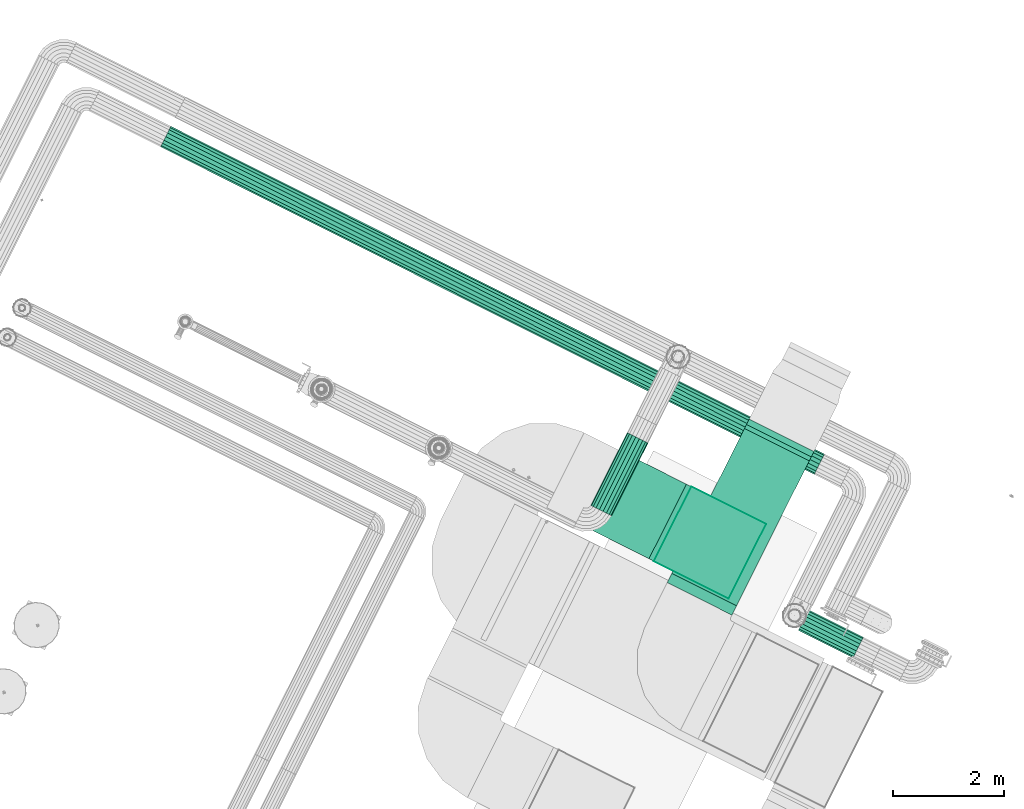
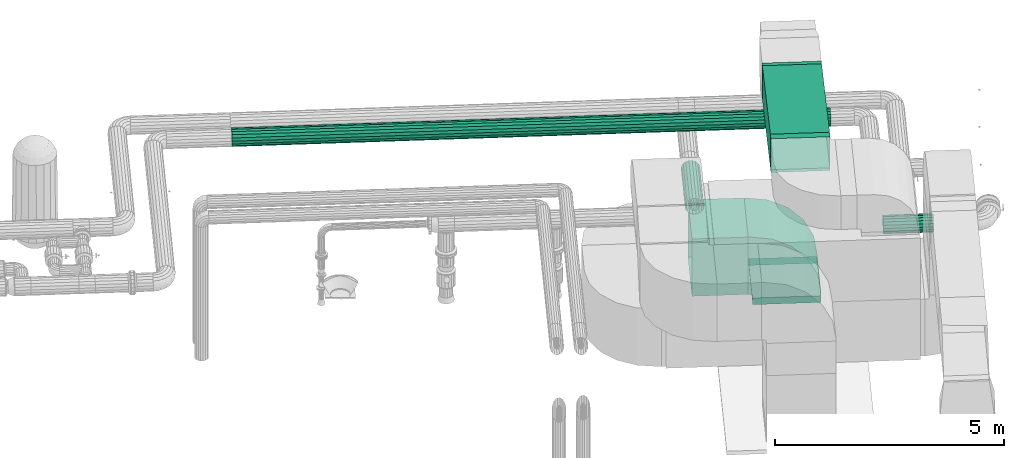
# One storey, part 9 of 152: 6 flow segments, 3 flow fittings, 1 flow treatment device.
"""IFC2X3 building model written with IfcOpenShell, lengths in metres."""

from ifc_helpers import new_model, si_unit, derived_unit, direction, frame, origin, place, context, subcontext, project, spatial, face_set, surface_model, source, transform, mapped, material, type_object, type_shapes, element, save


model = new_model("IFC2X3")

# Units and contexts
model_context = context("Model", 3, precision=5.2338327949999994e-05, world=origin(), true_north=direction((0.0, 1.0)))
body_context = subcontext(model_context, "Body", "Model", "MODEL_VIEW")
ifc_project = project(units=[si_unit("LENGTHUNIT", "METRE"), si_unit("AREAUNIT", "SQUARE_METRE"), si_unit("VOLUMEUNIT", "CUBIC_METRE"), si_unit("MASSUNIT", "GRAM", prefix="KILO"), si_unit("PLANEANGLEUNIT", "RADIAN"), derived_unit("THERMALTRANSMITTANCEUNIT", [(si_unit("MASSUNIT", "GRAM", prefix="KILO"), 1), (si_unit("THERMODYNAMICTEMPERATUREUNIT", "KELVIN"), -1), (si_unit("TIMEUNIT", "SECOND"), -3)])], contexts=[model_context])

# Site, building, storey
site_placement = place(None, frame((0.0, 0.0, 0.0), z_axis=(0.0, 0.0, 1.0), x_axis=(0.8939966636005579, -0.4480736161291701, 0.0)))
site = spatial("IfcSite", under=ifc_project, at=site_placement, Name="Default", CompositionType="ELEMENT")
building_placement = place(site_placement, origin())
building = spatial("IfcBuilding", under=site, at=building_placement, CompositionType="ELEMENT")
storey_placement = place(building_placement, frame((0.0, 0.0, 2.7499999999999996)))
storey = spatial("IfcBuildingStorey", under=building, at=storey_placement, Name="1. Obergeschoss", CompositionType="ELEMENT", Elevation=2.7499999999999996)

# Flow segment
ifc_material_1 = material(Name="IfcSurfaceStyle #9317")
distribution_element_type_1 = type_object("IfcDistributionElementType", Name="Stahlrohr nach DIN 2448 249461:Stahlrohr nach DIN 2448 249461", material=ifc_material_1)
shared_shape_1 = source(origin(), body_context, "Body", "SurfaceModel", [
    surface_model("IfcFaceBasedSurfaceModel", [(31.673034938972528, 11.262806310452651, 5.526090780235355), (31.673034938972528, 11.225338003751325, 5.53269745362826), (18.55, 11.225338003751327, 5.53269745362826), (18.55, 11.262806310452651, 5.526090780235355), (31.673034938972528, 11.19238892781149, 5.551720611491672), (18.55, 11.19238892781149, 5.551720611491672), (31.673034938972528, 11.167933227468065, 5.5808657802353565), (18.55, 11.167933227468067, 5.580865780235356), (31.673034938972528, 11.154920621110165, 5.616617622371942), (18.55, 11.154920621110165, 5.616617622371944), (31.673034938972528, 11.154920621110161, 5.654663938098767), (18.55, 11.154920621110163, 5.65466393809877), (31.673034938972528, 11.167933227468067, 5.690415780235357), (18.55, 11.167933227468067, 5.690415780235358), (31.673034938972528, 11.192388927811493, 5.719560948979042), (18.55, 11.19238892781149, 5.719560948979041), (31.673034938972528, 11.225338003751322, 5.738584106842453), (18.55, 11.225338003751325, 5.738584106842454), (31.673034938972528, 11.262806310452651, 5.745190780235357), (18.55, 11.26280631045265, 5.745190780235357), (31.673034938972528, 11.30027461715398, 5.73858410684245), (18.55, 11.300274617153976, 5.738584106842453), (31.673034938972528, 11.333223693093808, 5.719560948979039), (18.55, 11.333223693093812, 5.719560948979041), (31.673034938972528, 11.357679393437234, 5.690415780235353), (18.55, 11.357679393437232, 5.690415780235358), (31.673034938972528, 11.370691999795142, 5.654663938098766), (18.55, 11.37069199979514, 5.65466393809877), (31.673034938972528, 11.370691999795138, 5.616617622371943), (18.55, 11.37069199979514, 5.616617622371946), (31.673034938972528, 11.35767939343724, 5.580865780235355), (18.55, 11.357679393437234, 5.580865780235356), (31.673034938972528, 11.333223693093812, 5.551720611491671), (18.55, 11.333223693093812, 5.551720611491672), (31.673034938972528, 11.300274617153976, 5.532697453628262), (18.55, 11.300274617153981, 5.532697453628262), (31.673034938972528, 11.262806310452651, 5.426090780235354), (31.673034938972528, 11.191135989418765, 5.438728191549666), (18.55, 11.191135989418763, 5.43872819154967), (18.55, 11.262806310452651, 5.426090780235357), (31.673034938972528, 11.12811016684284, 5.475116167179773), (18.55, 11.12811016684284, 5.475116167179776), (31.673034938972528, 11.081330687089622, 5.530865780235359), (18.55, 11.081330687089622, 5.5308657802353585), (31.673034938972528, 11.056439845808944, 5.599252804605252), (18.55, 11.056439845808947, 5.599252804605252), (31.673034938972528, 11.056439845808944, 5.672028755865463), (18.55, 11.056439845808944, 5.672028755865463), (31.673034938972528, 11.081330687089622, 5.740415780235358), (18.55, 11.081330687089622, 5.740415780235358), (31.673034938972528, 11.128110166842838, 5.796165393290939), (18.55, 11.128110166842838, 5.796165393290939), (31.673034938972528, 11.191135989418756, 5.832553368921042), (18.55, 11.191135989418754, 5.832553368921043), (31.673034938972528, 11.26280631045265, 5.845190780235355), (18.55, 11.262806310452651, 5.845190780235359), (31.673034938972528, 11.334476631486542, 5.832553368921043), (18.55, 11.334476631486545, 5.832553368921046), (31.673034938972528, 11.397502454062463, 5.796165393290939), (18.55, 11.397502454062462, 5.796165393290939), (31.673034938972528, 11.444281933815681, 5.740415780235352), (18.55, 11.44428193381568, 5.740415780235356), (31.673034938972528, 11.469172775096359, 5.672028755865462), (18.55, 11.469172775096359, 5.672028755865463), (31.673034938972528, 11.469172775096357, 5.599252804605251), (18.55, 11.469172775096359, 5.599252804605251), (31.673034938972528, 11.444281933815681, 5.530865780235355), (18.55, 11.444281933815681, 5.530865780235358), (31.673034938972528, 11.397502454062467, 5.475116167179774), (18.55, 11.397502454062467, 5.475116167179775), (31.673034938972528, 11.334476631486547, 5.4387281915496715), (18.55, 11.33447663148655, 5.4387281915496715)], [face_set([[[0, 1, 2, 3]], [[1, 4, 5, 2]], [[4, 6, 7, 5]], [[6, 8, 9, 7]], [[8, 10, 11, 9]], [[10, 12, 13, 11]], [[12, 14, 15, 13]], [[14, 16, 17, 15]], [[16, 18, 19, 17]], [[18, 20, 21, 19]], [[20, 22, 23, 21]], [[22, 24, 25, 23]], [[24, 26, 27, 25]], [[26, 28, 29, 27]], [[28, 30, 31, 29]], [[30, 32, 33, 31]], [[32, 34, 35, 33]], [[34, 0, 3, 35]], [[36, 37, 38, 39]], [[37, 40, 41, 38]], [[40, 42, 43, 41]], [[42, 44, 45, 43]], [[44, 46, 47, 45]], [[46, 48, 49, 47]], [[48, 50, 51, 49]], [[50, 52, 53, 51]], [[52, 54, 55, 53]], [[54, 56, 57, 55]], [[56, 58, 59, 57]], [[58, 60, 61, 59]], [[60, 62, 63, 61]], [[62, 64, 65, 63]], [[64, 66, 67, 65]], [[66, 68, 69, 67]], [[68, 70, 71, 69]], [[70, 36, 39, 71]]])]),
])
type_shapes(distribution_element_type_1, [shared_shape_1])
flow_segment_1_placement = place(storey_placement, frame((0.0, 0.0, -2.7499999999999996)))
element("IfcFlowSegment", 1, at=flow_segment_1_placement, inside=storey, type_object=distribution_element_type_1, material=ifc_material_1, Name="Stahlrohr nach DIN 2448", ObjectType="Stahlrohr nach DIN 2448", context=body_context, shape_type="MappedRepresentation", body=[
    mapped(shared_shape_1, transform((0.0, 0.0, 0.0), scale=1.0)),
])

# Flow fitting
ifc_material_2 = material(Name="IfcSurfaceStyle #271571")
distribution_element_type_2 = type_object("IfcDistributionElementType", Name="Bogen asymmetrisch 272380:Bogen asymmetrisch 272380", material=ifc_material_2)
shared_shape_2 = source(origin(), body_context, "Body", "SurfaceModel", [
    surface_model("IfcFaceBasedSurfaceModel", [(31.300000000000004, 8.373869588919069, 2.9769999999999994), (31.300000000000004, 8.373869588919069, 2.897), (31.300000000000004, 9.87386958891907, 2.897), (31.300000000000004, 9.87386958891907, 2.9769999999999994), (29.800000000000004, 8.373869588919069, 2.897), (29.800000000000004, 8.373869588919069, 2.9469999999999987), (29.800000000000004, 9.87386958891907, 2.9469999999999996), (29.800000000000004, 9.87386958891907, 2.897), (29.750000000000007, 9.87386958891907, 2.997), (29.765450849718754, 9.87386958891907, 2.9945528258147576), (29.765450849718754, 8.373869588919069, 2.9945528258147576), (29.750000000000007, 8.373869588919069, 2.997), (29.77938926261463, 9.87386958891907, 2.9874508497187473), (29.77938926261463, 8.373869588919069, 2.9874508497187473), (29.790450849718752, 9.87386958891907, 2.9763892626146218), (29.790450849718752, 8.373869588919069, 2.9763892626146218), (29.797552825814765, 9.87386958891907, 2.9624508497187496), (29.797552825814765, 8.373869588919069, 2.962450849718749), (29.700000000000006, 8.373869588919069, 2.997), (29.700000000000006, 9.87386958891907, 2.9970000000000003), (29.700000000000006, 8.373869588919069, 4.526999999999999), (29.750000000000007, 8.373869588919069, 4.526999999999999), (29.750000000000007, 9.87386958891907, 4.526999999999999), (29.700000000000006, 9.87386958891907, 4.526999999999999), (31.224137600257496, 9.87386958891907, 3.4559763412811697), (31.224137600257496, 8.373869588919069, 3.4559763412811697), (31.003976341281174, 9.87386958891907, 3.8880671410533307), (31.003976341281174, 8.373869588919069, 3.8880671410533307), (30.661067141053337, 9.87386958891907, 4.230976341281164), (30.661067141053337, 8.373869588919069, 4.230976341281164), (30.228976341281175, 9.87386958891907, 4.451137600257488), (30.228976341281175, 8.373869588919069, 4.451137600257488)], [face_set([[[0, 1, 2, 3]], [[4, 5, 6, 7]], [[8, 9, 10, 11]], [[9, 12, 13, 10]], [[12, 14, 15, 13]], [[14, 16, 17, 15]], [[16, 6, 5, 17]], [[11, 18, 19, 8]], [[20, 21, 22, 23]], [[3, 24, 25, 0]], [[24, 26, 27, 25]], [[26, 28, 29, 27]], [[28, 30, 31, 29]], [[30, 22, 21, 31]], [[24, 3, 12]], [[24, 12, 9]], [[24, 9, 8]], [[24, 8, 23]], [[24, 23, 26]], [[3, 2, 6]], [[3, 6, 16]], [[3, 16, 14]], [[3, 14, 12]], [[23, 22, 30]], [[23, 30, 28]], [[23, 28, 26]], [[23, 8, 19]], [[6, 2, 7]], [[13, 0, 25]], [[10, 13, 25]], [[11, 10, 25]], [[20, 11, 25]], [[27, 20, 25]], [[5, 1, 0]], [[17, 5, 0]], [[15, 17, 0]], [[13, 15, 0]], [[31, 21, 20]], [[29, 31, 20]], [[27, 29, 20]], [[18, 11, 20]], [[4, 1, 5]]])]),
])
type_shapes(distribution_element_type_2, [shared_shape_2])
flow_fitting_1_placement = place(storey_placement, frame((0.0, 0.0, -2.7499999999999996)))
element("IfcFlowFitting", 2, at=flow_fitting_1_placement, inside=storey, type_object=distribution_element_type_2, material=ifc_material_2, Name="Bogen asymmetrisch", ObjectType="Bogen asymmetrisch", context=body_context, shape_type="MappedRepresentation", body=[
    mapped(shared_shape_2, transform((0.0, 0.0, 0.0), scale=1.0)),
])

# Flow segment
distribution_element_type_3 = type_object("IfcDistributionElementType", Name="Luftleitungsteil:Luftleitungsteil", material=ifc_material_2)
shared_shape_3 = source(origin(), body_context, "Body", "SurfaceModel", [
    surface_model("IfcFaceBasedSurfaceModel", [(29.800000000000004, 9.87386958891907, 2.897), (29.800000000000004, 9.87386958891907, 2.7176829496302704), (29.800000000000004, 8.373869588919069, 2.7176829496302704), (29.800000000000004, 8.373869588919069, 2.897), (31.300000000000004, 8.373869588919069, 2.7176829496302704), (31.300000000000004, 8.373869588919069, 2.897), (31.300000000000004, 9.87386958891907, 2.7176829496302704), (31.300000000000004, 9.87386958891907, 2.897)], [face_set([[[0, 1, 2, 3]], [[3, 2, 4, 5]], [[5, 4, 6, 7]], [[7, 6, 1, 0]]])]),
])
type_shapes(distribution_element_type_3, [shared_shape_3])
flow_segment_2_placement = place(storey_placement, frame((0.0, 0.0, -2.7499999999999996)))
element("IfcFlowSegment", 3, at=flow_segment_2_placement, inside=storey, type_object=distribution_element_type_3, material=ifc_material_2, Name="Luftleitungsteil", ObjectType="Luftleitungsteil", context=body_context, shape_type="MappedRepresentation", body=[
    mapped(shared_shape_3, transform((0.0, 0.0, 0.0), scale=1.0)),
])

# Flow fitting
ifc_material_3 = material(Name="IfcSurfaceStyle #271184")
distribution_element_type_4 = type_object("IfcDistributionElementType", Name="Bogen symmetrisch 275929:Bogen symmetrisch 275929", material=ifc_material_3)
shared_shape_4 = source(origin(), body_context, "Body", "SurfaceModel", [
    surface_model("IfcFaceBasedSurfaceModel", [(30.184074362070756, 8.275025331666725, 7.294194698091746), (30.184074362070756, 8.231488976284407, 7.29704822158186), (31.484074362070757, 8.231488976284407, 7.29704822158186), (31.484074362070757, 8.275025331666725, 7.294194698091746), (30.184074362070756, 8.18786958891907, 7.297999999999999), (31.484074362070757, 8.18786958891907, 7.297999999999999), (31.484074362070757, 8.324835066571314, 7.289836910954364), (30.184074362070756, 8.324835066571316, 7.289836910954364), (31.484074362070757, 8.246394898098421, 6.393261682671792), (31.484074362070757, 8.196585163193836, 6.3976194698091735), (30.184074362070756, 8.196585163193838, 6.397619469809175), (30.184074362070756, 8.246394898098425, 6.393261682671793), (30.184074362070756, 8.187869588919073, 6.398), (30.184074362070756, 8.192231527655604, 6.397904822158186), (31.484074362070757, 8.192231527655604, 6.397904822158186), (31.484074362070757, 8.18786958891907, 6.398), (31.484074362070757, 8.13786958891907, 6.398), (30.184074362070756, 8.13786958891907, 6.398), (31.484074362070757, 8.137869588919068, 7.298000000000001), (30.184074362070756, 8.13786958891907, 7.298)], [face_set([[[0, 1, 2, 3]], [[1, 4, 5, 2]], [[3, 6, 7, 0]], [[8, 9, 10, 11]], [[12, 13, 14, 15]], [[13, 10, 9, 14]], [[15, 16, 17, 12]], [[18, 5, 4, 19]], [[4, 1, 0]], [[4, 0, 7]], [[4, 7, 11]], [[4, 11, 10]], [[4, 10, 13]], [[4, 13, 12]], [[4, 12, 17]], [[4, 17, 19]], [[3, 2, 5]], [[6, 3, 5]], [[8, 6, 5]], [[9, 8, 5]], [[14, 9, 5]], [[15, 14, 5]], [[16, 15, 5]], [[18, 16, 5]]])]),
])
type_shapes(distribution_element_type_4, [shared_shape_4])
flow_fitting_2_placement = place(storey_placement, frame((0.0, 0.0, -2.7499999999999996)))
element("IfcFlowFitting", 4, at=flow_fitting_2_placement, inside=storey, type_object=distribution_element_type_4, material=ifc_material_3, Name="Bogen symmetrisch", ObjectType="Bogen symmetrisch", context=body_context, shape_type="MappedRepresentation", body=[
    mapped(shared_shape_4, transform((0.0, 0.0, 0.0), scale=1.0)),
])

# Flow treatment device
ifc_material_4 = material(Name="IfcSurfaceStyle #271082")
distribution_element_type_5 = type_object("IfcDistributionElementType", Name="Schalldämpfer 276123:Schalldämpfer 276123", material=ifc_material_4)
shared_shape_5 = source(origin(), body_context, "Body", "SurfaceModel", [
    surface_model("IfcFaceBasedSurfaceModel", [(30.184074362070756, 8.246394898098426, 6.393261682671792), (30.184074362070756, 11.234978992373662, 6.131794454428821), (31.48407436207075, 11.234978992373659, 6.131794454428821), (31.484074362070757, 8.246394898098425, 6.393261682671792), (31.48407436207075, 11.31341916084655, 7.028369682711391), (31.48407436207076, 8.324835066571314, 7.289836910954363), (30.184074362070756, 11.313419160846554, 7.028369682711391), (30.184074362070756, 8.324835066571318, 7.289836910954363)], [face_set([[[0, 1, 2, 3]], [[3, 2, 4, 5]], [[5, 4, 6, 7]], [[7, 6, 1, 0]]])]),
])
type_shapes(distribution_element_type_5, [shared_shape_5])
flow_treatment_device_placement = place(storey_placement, frame((0.0, 0.0, -2.7499999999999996)))
element("IfcFlowTreatmentDevice", 5, at=flow_treatment_device_placement, inside=storey, type_object=distribution_element_type_5, material=ifc_material_4, Name="Schalldämpfer", ObjectType="Schalldämpfer", context=body_context, shape_type="MappedRepresentation", body=[
    mapped(shared_shape_5, transform((0.0, 0.0, 0.0), scale=1.0)),
])

# Flow fitting
distribution_element_type_6 = type_object("IfcDistributionElementType", Name="Bogen symmetrisch 276186:Bogen symmetrisch 276186", material=ifc_material_3)
shared_shape_6 = source(origin(), body_context, "Body", "SurfaceModel", [
    surface_model("IfcFaceBasedSurfaceModel", [(30.184074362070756, 11.28478872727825, 6.1274366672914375), (30.184074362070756, 11.328325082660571, 6.124583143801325), (31.48407436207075, 11.328325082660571, 6.124583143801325), (31.48407436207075, 11.28478872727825, 6.1274366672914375), (30.184074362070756, 11.371944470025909, 6.123631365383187), (31.48407436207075, 11.371944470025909, 6.123631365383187), (31.48407436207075, 11.234978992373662, 6.131794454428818), (30.184074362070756, 11.23497899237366, 6.131794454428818), (31.48407436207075, 11.313419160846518, 7.028369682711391), (31.48407436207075, 11.363228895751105, 7.024011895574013), (30.184074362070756, 11.363228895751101, 7.02401189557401), (30.184074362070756, 11.313419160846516, 7.028369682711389), (30.184074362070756, 11.37194447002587, 7.023631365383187), (30.184074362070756, 11.367582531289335, 7.023726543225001), (31.48407436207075, 11.367582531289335, 7.023726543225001), (31.48407436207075, 11.37194447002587, 7.023631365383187), (31.48407436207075, 11.421944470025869, 7.0236313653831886), (30.184074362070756, 11.421944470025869, 7.0236313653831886), (31.48407436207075, 11.421944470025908, 6.123631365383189), (30.184074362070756, 11.421944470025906, 6.123631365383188)], [face_set([[[0, 1, 2, 3]], [[1, 4, 5, 2]], [[3, 6, 7, 0]], [[8, 9, 10, 11]], [[12, 13, 14, 15]], [[13, 10, 9, 14]], [[15, 16, 17, 12]], [[18, 5, 4, 19]], [[4, 1, 0]], [[4, 0, 7]], [[4, 7, 11]], [[4, 11, 10]], [[4, 10, 13]], [[4, 13, 12]], [[4, 12, 17]], [[4, 17, 19]], [[3, 2, 5]], [[6, 3, 5]], [[8, 6, 5]], [[9, 8, 5]], [[14, 9, 5]], [[15, 14, 5]], [[16, 15, 5]], [[18, 16, 5]]])]),
])
type_shapes(distribution_element_type_6, [shared_shape_6])
flow_fitting_3_placement = place(storey_placement, frame((0.0, 0.0, -2.7499999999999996)))
element("IfcFlowFitting", 6, at=flow_fitting_3_placement, inside=storey, type_object=distribution_element_type_6, material=ifc_material_3, Name="Bogen symmetrisch", ObjectType="Bogen symmetrisch", context=body_context, shape_type="MappedRepresentation", body=[
    mapped(shared_shape_6, transform((0.0, 0.0, 0.0), scale=1.0)),
])

# Flow segments
distribution_element_type_7 = type_object("IfcDistributionElementType", Name="Luftleitung 277036:Luftleitung 277036", material=ifc_material_2)
shared_shape_7 = source(origin(), body_context, "Body", "SurfaceModel", [
    surface_model("IfcFaceBasedSurfaceModel", [(29.700000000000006, 9.87386958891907, 4.526999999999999), (28.468211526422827, 9.87386958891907, 4.526999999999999), (28.468211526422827, 8.373869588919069, 4.526999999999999), (29.700000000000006, 8.373869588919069, 4.526999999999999), (28.468211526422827, 8.373869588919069, 2.9969999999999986), (29.700000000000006, 8.373869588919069, 2.9970000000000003), (28.468211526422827, 9.87386958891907, 2.9969999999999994), (29.700000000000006, 9.87386958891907, 2.9970000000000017)], [face_set([[[0, 1, 2, 3]], [[3, 2, 4, 5]], [[5, 4, 6, 7]], [[7, 6, 1, 0]]])]),
])
type_shapes(distribution_element_type_7, [shared_shape_7])
flow_segment_3_placement = place(storey_placement, frame((0.0, 0.0, -2.7499999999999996)))
element("IfcFlowSegment", 7, at=flow_segment_3_placement, inside=storey, type_object=distribution_element_type_7, material=ifc_material_2, Name="Luftleitung", ObjectType="Luftleitung", context=body_context, shape_type="MappedRepresentation", body=[
    mapped(shared_shape_7, transform((0.0, 0.0, 0.0), scale=1.0)),
])
distribution_element_type_8 = type_object("IfcDistributionElementType", Name="Stahlrohr nach DIN 2448 613000:Stahlrohr nach DIN 2448 613000", material=ifc_material_1)
shared_shape_8 = source(origin(), body_context, "Body", "SurfaceModel", [
    surface_model("IfcFaceBasedSurfaceModel", [(33.77227278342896, 8.633986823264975, 4.6690999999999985), (33.77227278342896, 8.671455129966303, 4.662493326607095), (32.67339487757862, 8.6714551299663, 4.662493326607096), (32.67339487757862, 8.633986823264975, 4.6690999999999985), (33.77227278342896, 8.704404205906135, 4.643470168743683), (32.67339487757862, 8.704404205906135, 4.643470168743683), (33.77227278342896, 8.728859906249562, 4.614324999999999), (32.67339487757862, 8.728859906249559, 4.614324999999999), (33.77227278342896, 8.741872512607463, 4.578573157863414), (32.67339487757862, 8.741872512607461, 4.578573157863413), (33.77227278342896, 8.741872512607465, 4.54052684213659), (32.67339487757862, 8.741872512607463, 4.540526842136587), (33.77227278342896, 8.728859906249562, 4.5047749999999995), (32.67339487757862, 8.72885990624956, 4.5047749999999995), (33.77227278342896, 8.704404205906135, 4.475629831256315), (32.67339487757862, 8.704404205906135, 4.475629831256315), (33.77227278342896, 8.671455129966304, 4.456606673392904), (32.67339487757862, 8.671455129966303, 4.456606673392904), (33.77227278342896, 8.633986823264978, 4.449999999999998), (32.67339487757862, 8.633986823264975, 4.4499999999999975), (33.77227278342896, 8.59651851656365, 4.456606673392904), (32.67339487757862, 8.59651851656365, 4.456606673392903), (33.77227278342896, 8.563569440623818, 4.475629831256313), (32.67339487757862, 8.563569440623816, 4.475629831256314), (33.77227278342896, 8.539113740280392, 4.504774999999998), (32.67339487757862, 8.539113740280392, 4.504774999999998), (33.77227278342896, 8.52610113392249, 4.540526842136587), (32.67339487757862, 8.52610113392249, 4.540526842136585), (33.77227278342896, 8.52610113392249, 4.578573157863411), (32.67339487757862, 8.52610113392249, 4.578573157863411), (33.77227278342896, 8.53911374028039, 4.614324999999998), (32.67339487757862, 8.53911374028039, 4.614324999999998), (33.77227278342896, 8.563569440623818, 4.643470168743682), (32.67339487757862, 8.563569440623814, 4.643470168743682), (33.77227278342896, 8.59651851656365, 4.662493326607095), (32.67339487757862, 8.596518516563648, 4.662493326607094), (33.77227278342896, 8.633986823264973, 4.769099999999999), (33.77227278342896, 8.705657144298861, 4.756462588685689), (32.67339487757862, 8.705657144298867, 4.756462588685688), (32.67339487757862, 8.633986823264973, 4.769099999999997), (33.77227278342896, 8.768682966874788, 4.7200746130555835), (32.67339487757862, 8.768682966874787, 4.720074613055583), (33.77227278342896, 8.815462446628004, 4.664324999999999), (32.67339487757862, 8.815462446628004, 4.664325), (33.77227278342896, 8.840353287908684, 4.5959379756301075), (32.67339487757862, 8.840353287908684, 4.595937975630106), (33.77227278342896, 8.840353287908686, 4.5231620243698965), (32.67339487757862, 8.840353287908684, 4.5231620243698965), (33.77227278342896, 8.815462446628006, 4.4547750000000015), (32.67339487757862, 8.815462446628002, 4.454775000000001), (33.77227278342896, 8.768682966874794, 4.399025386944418), (32.67339487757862, 8.768682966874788, 4.399025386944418), (33.77227278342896, 8.705657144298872, 4.362637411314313), (32.67339487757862, 8.705657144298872, 4.362637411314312), (33.77227278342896, 8.63398682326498, 4.3500000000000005), (32.67339487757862, 8.633986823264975, 4.349999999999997), (33.77227278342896, 8.562316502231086, 4.362637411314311), (32.67339487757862, 8.562316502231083, 4.36263741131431), (33.77227278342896, 8.499290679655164, 4.399025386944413), (32.67339487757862, 8.499290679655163, 4.399025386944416), (33.77227278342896, 8.452511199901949, 4.454774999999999), (32.67339487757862, 8.452511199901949, 4.454774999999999), (33.77227278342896, 8.427620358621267, 4.52316202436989), (32.67339487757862, 8.427620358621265, 4.523162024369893), (33.77227278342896, 8.427620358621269, 4.595937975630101), (32.67339487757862, 8.427620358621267, 4.595937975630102), (33.77227278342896, 8.452511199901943, 4.664324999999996), (32.67339487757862, 8.452511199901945, 4.664324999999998), (33.77227278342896, 8.49929067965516, 4.72007461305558), (32.67339487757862, 8.49929067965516, 4.72007461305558), (33.77227278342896, 8.56231650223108, 4.756462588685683), (32.67339487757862, 8.562316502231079, 4.756462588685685)], [face_set([[[0, 1, 2, 3]], [[1, 4, 5, 2]], [[4, 6, 7, 5]], [[6, 8, 9, 7]], [[8, 10, 11, 9]], [[10, 12, 13, 11]], [[12, 14, 15, 13]], [[14, 16, 17, 15]], [[16, 18, 19, 17]], [[18, 20, 21, 19]], [[20, 22, 23, 21]], [[22, 24, 25, 23]], [[24, 26, 27, 25]], [[26, 28, 29, 27]], [[28, 30, 31, 29]], [[30, 32, 33, 31]], [[32, 34, 35, 33]], [[34, 0, 3, 35]], [[36, 37, 38, 39]], [[37, 40, 41, 38]], [[40, 42, 43, 41]], [[42, 44, 45, 43]], [[44, 46, 47, 45]], [[46, 48, 49, 47]], [[48, 50, 51, 49]], [[50, 52, 53, 51]], [[52, 54, 55, 53]], [[54, 56, 57, 55]], [[56, 58, 59, 57]], [[58, 60, 61, 59]], [[60, 62, 63, 61]], [[62, 64, 65, 63]], [[64, 66, 67, 65]], [[66, 68, 69, 67]], [[68, 70, 71, 69]], [[70, 36, 39, 71]]])]),
])
type_shapes(distribution_element_type_8, [shared_shape_8])
flow_segment_4_placement = place(storey_placement, frame((0.0, 0.0, -2.7499999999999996)))
element("IfcFlowSegment", 8, at=flow_segment_4_placement, inside=storey, type_object=distribution_element_type_8, material=ifc_material_1, Name="Stahlrohr nach DIN 2448", ObjectType="Stahlrohr nach DIN 2448", context=body_context, shape_type="MappedRepresentation", body=[
    mapped(shared_shape_8, transform((0.0, 0.0, 0.0), scale=1.0)),
])
ifc_material_5 = material(Name="IfcSurfaceStyle #1741")
distribution_element_type_9 = type_object("IfcDistributionElementType", Name="Stahlrohr nach DIN 2448 615024:Stahlrohr nach DIN 2448 615024", material=ifc_material_5)
shared_shape_9 = source(origin(), body_context, "Body", "SurfaceModel", [
    surface_model("IfcFaceBasedSurfaceModel", [(28.655474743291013, 10.225208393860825, 5.122997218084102), (28.648868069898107, 10.225208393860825, 5.160465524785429), (28.648868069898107, 8.764715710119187, 5.1604655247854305), (28.655474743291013, 8.764715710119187, 5.122997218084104), (28.62984491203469, 10.225208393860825, 5.19341460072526), (28.62984491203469, 8.764715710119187, 5.193414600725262), (28.60069974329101, 10.225208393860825, 5.217870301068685), (28.600699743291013, 8.764715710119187, 5.217870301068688), (28.564947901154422, 10.225208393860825, 5.230882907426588), (28.564947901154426, 8.764715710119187, 5.230882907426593), (28.5269015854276, 10.225208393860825, 5.230882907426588), (28.526901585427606, 8.764715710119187, 5.2308829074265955), (28.491149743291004, 10.225208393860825, 5.217870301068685), (28.491149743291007, 8.764715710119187, 5.217870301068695), (28.462004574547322, 10.225208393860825, 5.193414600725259), (28.46200457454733, 8.764715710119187, 5.193414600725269), (28.442981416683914, 10.225208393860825, 5.1604655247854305), (28.44298141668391, 8.764715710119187, 5.16046552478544), (28.436374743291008, 10.225208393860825, 5.1229972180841), (28.436374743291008, 8.764715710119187, 5.122997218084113), (28.44298141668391, 10.225208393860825, 5.085528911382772), (28.44298141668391, 8.764715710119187, 5.0855289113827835), (28.462004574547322, 10.225208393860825, 5.052579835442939), (28.462004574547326, 8.764715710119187, 5.05257983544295), (28.49114974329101, 10.225208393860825, 5.028124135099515), (28.491149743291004, 8.764715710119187, 5.0281241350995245), (28.5269015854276, 10.225208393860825, 5.015111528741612), (28.526901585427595, 8.764715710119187, 5.0151115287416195), (28.564947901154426, 10.225208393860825, 5.015111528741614), (28.56494790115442, 8.764715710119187, 5.015111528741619), (28.600699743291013, 10.225208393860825, 5.028124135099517), (28.60069974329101, 8.764715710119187, 5.028124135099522), (28.629844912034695, 10.225208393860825, 5.0525798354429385), (28.62984491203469, 8.764715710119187, 5.052579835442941), (28.648868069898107, 10.225208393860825, 5.085528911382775), (28.648868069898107, 8.764715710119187, 5.085528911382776), (28.755474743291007, 10.225208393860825, 5.1229972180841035), (28.7428373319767, 10.225208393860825, 5.194667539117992), (28.7428373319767, 8.764715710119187, 5.194667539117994), (28.75547474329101, 8.764715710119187, 5.1229972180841), (28.706449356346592, 10.225208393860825, 5.257693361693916), (28.706449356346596, 8.764715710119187, 5.257693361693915), (28.650699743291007, 10.225208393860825, 5.3044728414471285), (28.65069974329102, 8.764715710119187, 5.304472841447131), (28.582312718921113, 10.225208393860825, 5.329363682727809), (28.58231271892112, 8.764715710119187, 5.329363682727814), (28.509536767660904, 10.225208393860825, 5.3293636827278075), (28.509536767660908, 8.764715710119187, 5.329363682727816), (28.44114974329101, 10.225208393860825, 5.30447284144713), (28.441149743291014, 8.764715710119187, 5.304472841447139), (28.385400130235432, 10.225208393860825, 5.257693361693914), (28.385400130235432, 8.764715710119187, 5.257693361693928), (28.34901215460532, 10.225208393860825, 5.194667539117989), (28.34901215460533, 8.764715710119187, 5.194667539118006), (28.33637474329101, 10.225208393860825, 5.122997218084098), (28.336374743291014, 8.764715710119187, 5.122997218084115), (28.349012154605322, 10.225208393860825, 5.051326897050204), (28.349012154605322, 8.764715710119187, 5.051326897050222), (28.385400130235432, 10.225208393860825, 4.988301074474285), (28.38540013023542, 8.764715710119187, 4.9883010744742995), (28.44114974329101, 10.225208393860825, 4.941521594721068), (28.441149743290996, 8.764715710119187, 4.941521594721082), (28.509536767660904, 10.225208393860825, 4.916630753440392), (28.509536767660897, 8.764715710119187, 4.916630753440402), (28.582312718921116, 10.225208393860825, 4.916630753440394), (28.582312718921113, 8.764715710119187, 4.916630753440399), (28.65069974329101, 10.225208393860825, 4.941521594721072), (28.650699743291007, 8.764715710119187, 4.941521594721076), (28.706449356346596, 10.225208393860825, 4.988301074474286), (28.70644935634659, 8.764715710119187, 4.988301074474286), (28.742837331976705, 10.225208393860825, 5.051326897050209), (28.7428373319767, 8.764715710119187, 5.051326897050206)], [face_set([[[0, 1, 2, 3]], [[1, 4, 5, 2]], [[4, 6, 7, 5]], [[6, 8, 9, 7]], [[8, 10, 11, 9]], [[10, 12, 13, 11]], [[12, 14, 15, 13]], [[14, 16, 17, 15]], [[16, 18, 19, 17]], [[18, 20, 21, 19]], [[20, 22, 23, 21]], [[22, 24, 25, 23]], [[24, 26, 27, 25]], [[26, 28, 29, 27]], [[28, 30, 31, 29]], [[30, 32, 33, 31]], [[32, 34, 35, 33]], [[34, 0, 3, 35]], [[36, 37, 38, 39]], [[37, 40, 41, 38]], [[40, 42, 43, 41]], [[42, 44, 45, 43]], [[44, 46, 47, 45]], [[46, 48, 49, 47]], [[48, 50, 51, 49]], [[50, 52, 53, 51]], [[52, 54, 55, 53]], [[54, 56, 57, 55]], [[56, 58, 59, 57]], [[58, 60, 61, 59]], [[60, 62, 63, 61]], [[62, 64, 65, 63]], [[64, 66, 67, 65]], [[66, 68, 69, 67]], [[68, 70, 71, 69]], [[70, 36, 39, 71]]])]),
])
type_shapes(distribution_element_type_9, [shared_shape_9])
flow_segment_5_placement = place(storey_placement, frame((0.0, 0.0, -2.7499999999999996)))
element("IfcFlowSegment", 9, at=flow_segment_5_placement, inside=storey, type_object=distribution_element_type_9, material=ifc_material_5, Name="Stahlrohr nach DIN 2448", ObjectType="Stahlrohr nach DIN 2448", context=body_context, shape_type="MappedRepresentation", body=[
    mapped(shared_shape_9, transform((0.0, 0.0, 0.0), scale=1.0)),
])
distribution_element_type_10 = type_object("IfcDistributionElementType", Name="Luftleitungsteil 852384:Luftleitungsteil 852384", material=ifc_material_2)
shared_shape_10 = source(origin(), body_context, "Body", "SurfaceModel", [
    surface_model("IfcFaceBasedSurfaceModel", [(29.800000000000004, 9.87386958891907, 2.8970000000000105), (29.800000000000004, 9.87386958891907, 2.717682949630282), (29.800000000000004, 8.373869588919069, 2.717682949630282), (29.800000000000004, 8.373869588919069, 2.8970000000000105), (31.300000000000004, 8.373869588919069, 2.717682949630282), (31.300000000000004, 8.373869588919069, 2.8970000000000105), (31.300000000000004, 9.87386958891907, 2.717682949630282), (31.300000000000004, 9.87386958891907, 2.8970000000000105)], [face_set([[[0, 1, 2, 3]], [[3, 2, 4, 5]], [[5, 4, 6, 7]], [[7, 6, 1, 0]]])]),
])
type_shapes(distribution_element_type_10, [shared_shape_10])
flow_segment_6_placement = place(storey_placement, frame((0.0, 0.0, -2.7499999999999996)))
element("IfcFlowSegment", 10, at=flow_segment_6_placement, inside=storey, type_object=distribution_element_type_10, material=ifc_material_2, Name="Luftleitungsteil", ObjectType="Luftleitungsteil", context=body_context, shape_type="MappedRepresentation", body=[
    mapped(shared_shape_10, transform((0.0, 0.0, 0.0), scale=1.0)),
])

save(model, "model.ifc")
